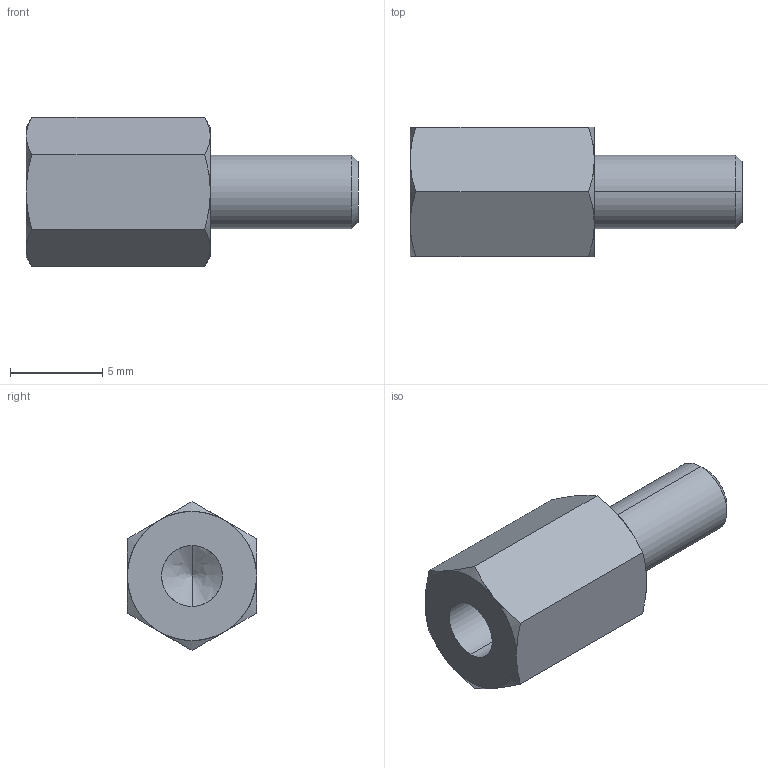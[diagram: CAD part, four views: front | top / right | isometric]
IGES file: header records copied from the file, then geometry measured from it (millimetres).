
Start section: SolidWorks IGES file using analytic representation for surfaces
Global section: file name: C:\Users\render1\Desktop\P0185_IGES\P0185.04-10.igs; native system: SolidWorks 2009; preprocessor: SolidWorks 2009; author: render1; date: 130627.112014; units: millimetre
Bounding box: 18 x 7 x 8.08 mm (x, y, z)
Surface area: 474.3 mm2 (no closed solid volume)
Topology: 0 solids, 0 shells, 29 faces, 320 edges, 318 vertices
Faces by surface type: revolution 20, bspline 9
